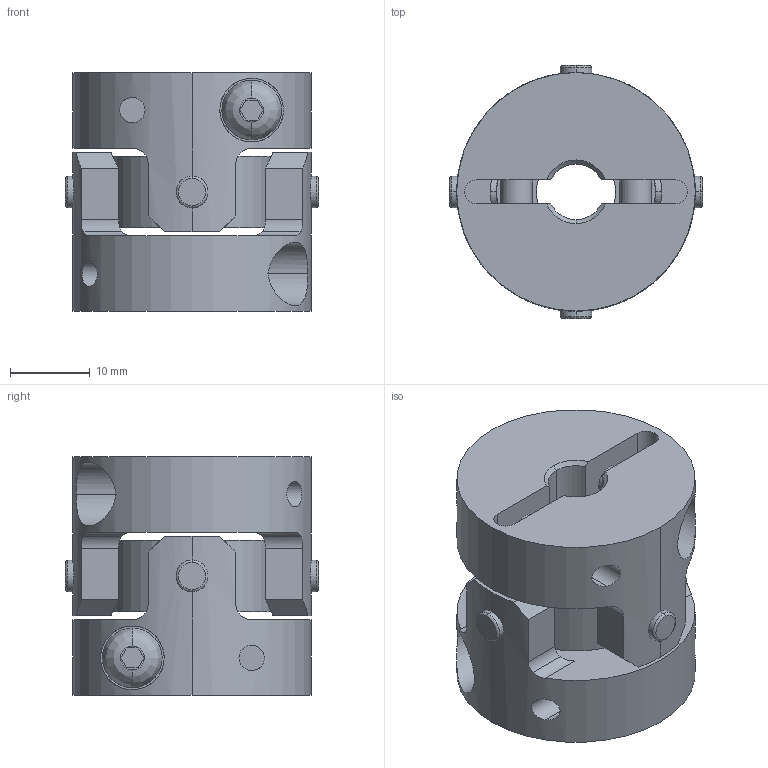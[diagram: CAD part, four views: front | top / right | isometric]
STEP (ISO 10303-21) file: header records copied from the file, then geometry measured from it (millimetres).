
FILE_DESCRIPTION((''),'2;1');
FILE_NAME('UA-30C-7×10.stp','2013-05-21T16:16:33',(''),(''),'AutoCAD STEP 2000i','AutoCAD 2000i',', , ');
FILE_SCHEMA(('CONFIG_CONTROL_DESIGN'));
Length unit declared in the file: millimetre
Products named in the file (6): UA-30C-6×6; 忣兜1; UA-3002-D06-1; BTN-M4; UA-3002-D06; UA30-SEN
Assembly tree (6 placements, depth 3):
  UA-30C-6×6
    忣兜1
    UA-3002-D06-1
      BTN-M4
    UA-3002-D06
      BTN-M4
    UA30-SEN
Bounding box: 31.82 x 31.82 x 30 mm (x, y, z)
Volume: 14565 mm3; surface area: 8868.6 mm2
Topology: 1 solids, 1 shells, 206 faces, 554 edges, 364 vertices
Faces by surface type: cylinder 96, plane 78, cone 16, bspline 8, torus 8
Entity records: 8479 total; most frequent: CARTESIAN_POINT 3163, ORIENTED_EDGE 1108, DIRECTION 1064, EDGE_CURVE 554, AXIS2_PLACEMENT_3D 409, VERTEX_POINT 364, VECTOR 246, LINE 246
